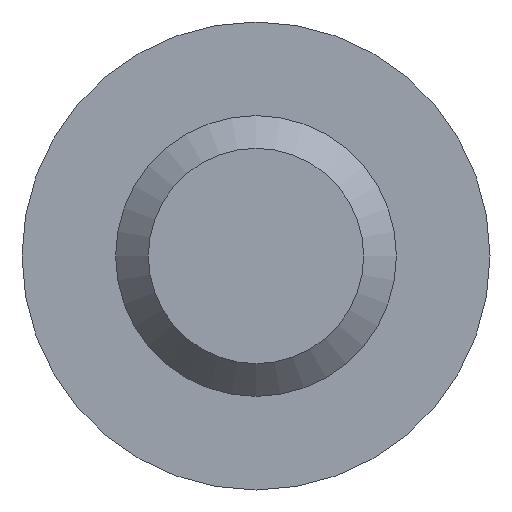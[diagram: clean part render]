
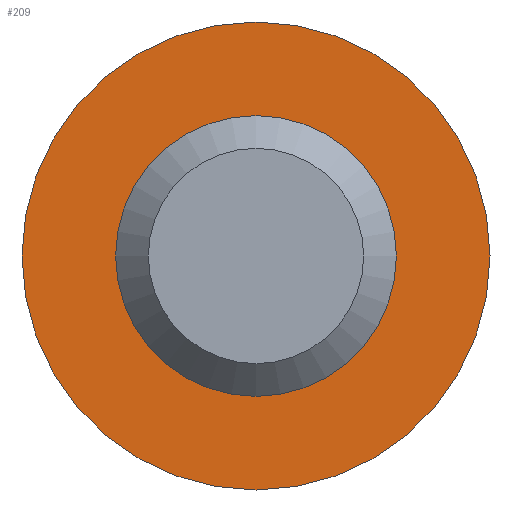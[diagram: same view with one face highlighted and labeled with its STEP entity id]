
A CAD part, front view. The second image highlights one B-rep face of the part: STEP entity #209.
In plain terms, the highlighted planar face has unit normal (0, -1, 0).
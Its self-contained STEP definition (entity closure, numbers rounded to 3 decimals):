
#15 = PLANE ( 'NONE',  #237 ) ;
#26 = CIRCLE ( 'NONE', #350, 3. ) ;
#42 = DIRECTION ( 'NONE',  ( 0., 0., 1. ) ) ;
#48 = EDGE_CURVE ( 'NONE', #252, #252, #133, .T. ) ;
#80 = CARTESIAN_POINT ( 'NONE',  ( 0., 0., 3. ) ) ;
#85 = CARTESIAN_POINT ( 'NONE',  ( 0., 0., 0. ) ) ;
#98 = EDGE_LOOP ( 'NONE', ( #314 ) ) ;
#133 = CIRCLE ( 'NONE', #148, 5. ) ;
#148 = AXIS2_PLACEMENT_3D ( 'NONE', #211, #348, #184 ) ;
#162 = DIRECTION ( 'NONE',  ( 0., 1., 0. ) ) ;
#169 = EDGE_LOOP ( 'NONE', ( #171 ) ) ;
#171 = ORIENTED_EDGE ( 'NONE', *, *, #290, .T. ) ;
#184 = DIRECTION ( 'NONE',  ( 0., 0., 1. ) ) ;
#187 = FACE_BOUND ( 'NONE', #169, .T. ) ;
#198 = DIRECTION ( 'NONE',  ( 0., 0., 1. ) ) ;
#209 = ADVANCED_FACE ( 'NONE', ( #272, #187 ), #15, .F. ) ;
#211 = CARTESIAN_POINT ( 'NONE',  ( 0., 0., 0. ) ) ;
#237 = AXIS2_PLACEMENT_3D ( 'NONE', #247, #162, #42 ) ;
#247 = CARTESIAN_POINT ( 'NONE',  ( 3., 0., 0. ) ) ;
#250 = CARTESIAN_POINT ( 'NONE',  ( 0., 0., 5. ) ) ;
#252 = VERTEX_POINT ( 'NONE', #250 ) ;
#272 = FACE_OUTER_BOUND ( 'NONE', #98, .T. ) ;
#290 = EDGE_CURVE ( 'NONE', #335, #335, #26, .T. ) ;
#314 = ORIENTED_EDGE ( 'NONE', *, *, #48, .F. ) ;
#335 = VERTEX_POINT ( 'NONE', #80 ) ;
#341 = DIRECTION ( 'NONE',  ( 0., 1., 0. ) ) ;
#348 = DIRECTION ( 'NONE',  ( 0., 1., 0. ) ) ;
#350 = AXIS2_PLACEMENT_3D ( 'NONE', #85, #341, #198 ) ;
